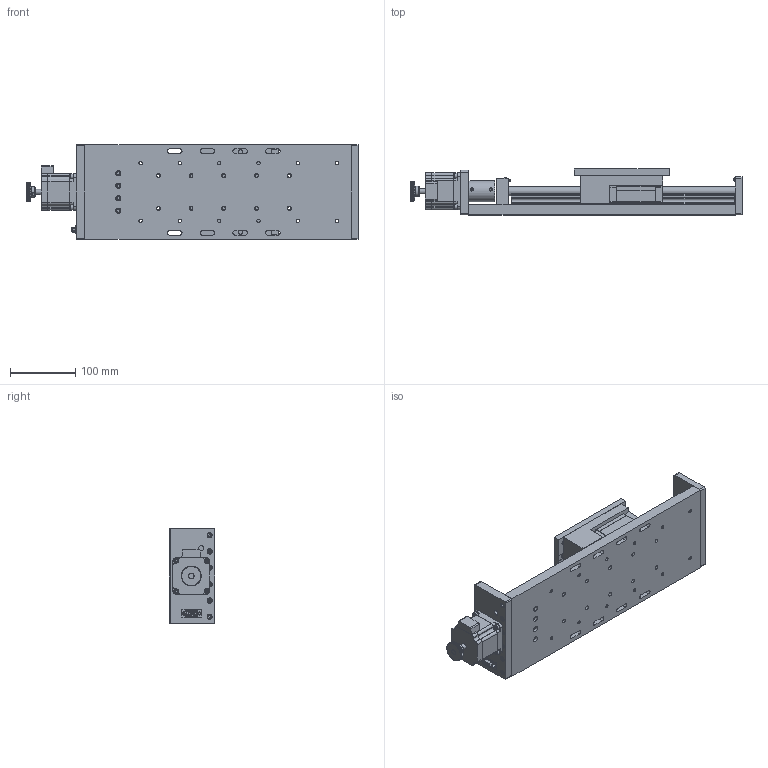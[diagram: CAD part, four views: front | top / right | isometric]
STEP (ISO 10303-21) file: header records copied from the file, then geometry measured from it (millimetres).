
FILE_DESCRIPTION (( 'STEP AP203' ), '1' );
FILE_NAME ('MTP145-200.step', '2017-01-10T10:32:11', ( '¦K¬P' ), ( '' ), 'SwSTEP 2.0', 'SolidWorks 2012', '' );
FILE_SCHEMA (( 'CONFIG_CONTROL_DESIGN' ));
Length unit declared in the file: millimetre
Products named in the file (1): MTP145-200
Bounding box: 507 x 70 x 145 mm (x, y, z)
Surface area: 388665.3 mm2 (no closed solid volume)
Topology: 0 solids, 96 shells, 1179 faces, 3866 edges, 2742 vertices
Faces by surface type: plane 717, cylinder 367, cone 70, torus 13, sphere 8, bspline 4
Full cylindrical faces by diameter (mm): 1.04 x6, 1.14 x9, 1.64 x9, 3 x2, 4 x12, 4.5 x1, 5 x13, 6 x58, 7 x4, 7.5 x7, 7.6 x4, 8 x25, 11 x8, 14 x1, 15.8 x1, 21 x2, 32 x1, 38.1 x1
Entity records: 41999 total; most frequent: CARTESIAN_POINT 8945, DIRECTION 6769, ORIENTED_EDGE 5854, EDGE_CURVE 3587, VERTEX_POINT 2701, AXIS2_PLACEMENT_3D 2303, VECTOR 2163, LINE 2163
